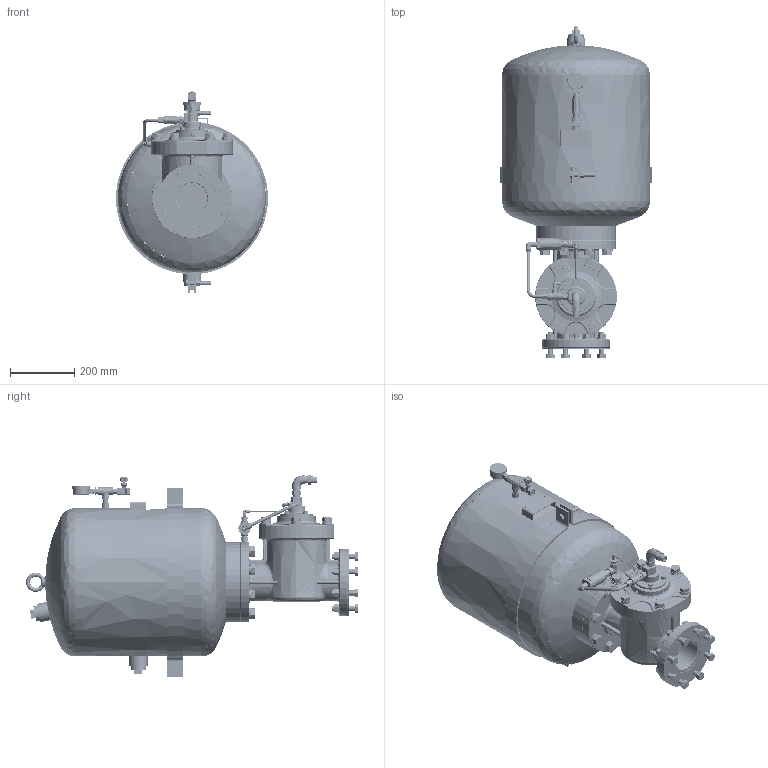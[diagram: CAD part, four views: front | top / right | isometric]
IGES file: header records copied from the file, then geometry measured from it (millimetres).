
Start section: SolidWorks IGES file using analytic representation for surfaces
Global section: file name: V:\WORK\08133\HP 寸法図\blaster\EDB4-80\test_G27000B-000 EDB4-80_defeature.IGS,15; native system: HSolidWorks 2018; preprocessor: SolidWorks 2018; author: n-udagawa; date: 230118.155813; units: millimetre
Bounding box: 474 x 1034.75 x 629 mm (x, y, z)
Surface area: 1753210.6 mm2 (no closed solid volume)
Topology: 0 solids, 0 shells, 2341 faces, 40704 edges, 46209 vertices
Faces by surface type: bspline 1229, revolution 1112
